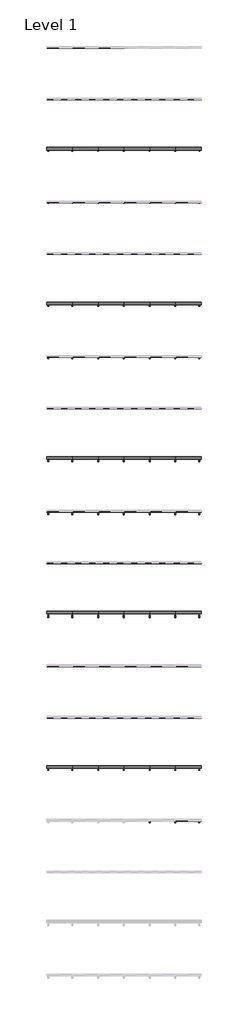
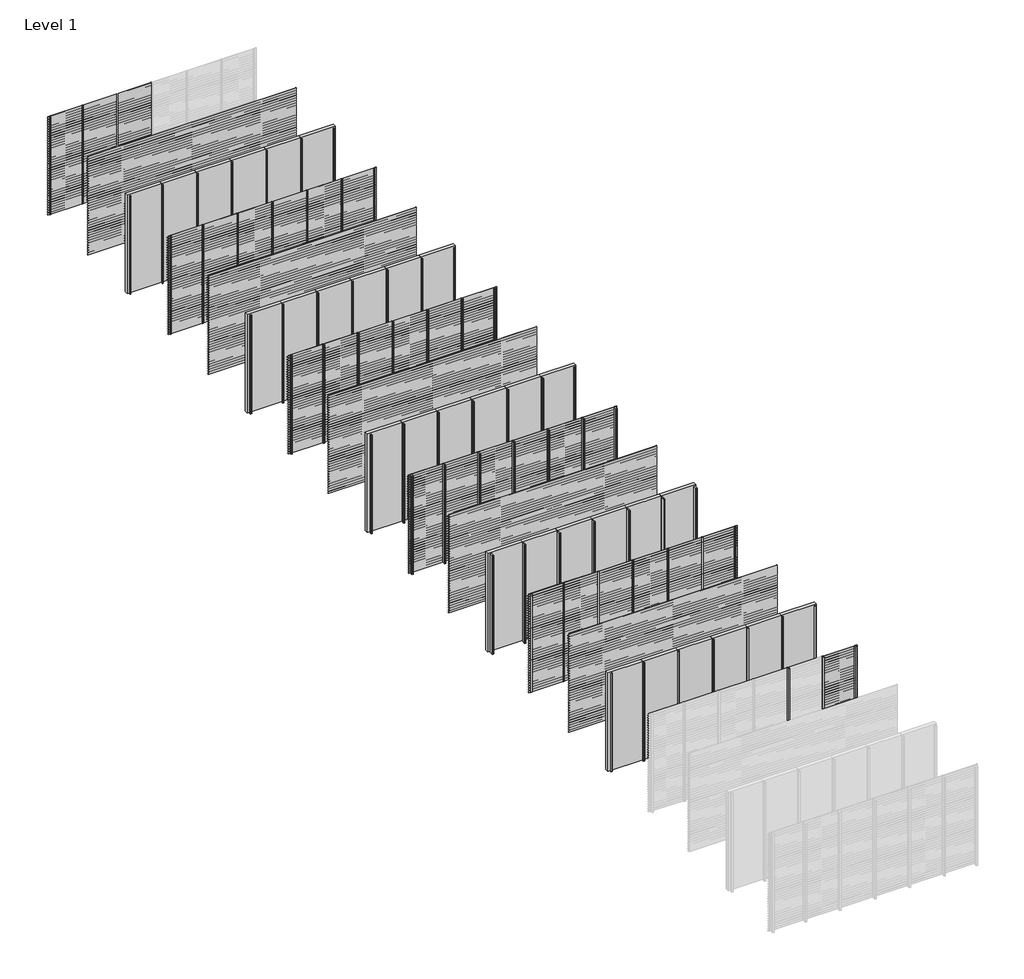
# One storey, part 2 of 35: 68 members, 63 plates.
"""IFC4 building model written with IfcOpenShell, lengths in millimetres."""

from ifc_helpers import new_model, si_unit, origin, origin_with_axes, place, context, project, spatial, polyline, outline, extrude, transform, mapped, element, save
from components import rectangular_mullion_42be434b, rectangular_mullion_e1f482b2, rectangular_mullion_21e3ddae, rectangular_mullion_fb497acc, rectangular_mullion_3facce28, rectangular_mullion_6cf2c509, rectangular_mullion_ffdfeaf4, rectangular_mullion_e0a14876, rectangular_mullion_146f339b, rectangular_mullion_aa1047c5, rectangular_mullion_c2c7736a, rectangular_mullion_35b0a916, rectangular_mullion_bd250e2e, rectangular_mullion_7b49c8f1, rectangular_mullion_2b84ad7e, rectangular_mullion_0fd695e7, rectangular_mullion_dfb17e98, empty_system_panel_empty_4f94343c

model = new_model("IFC4")

# Units and contexts
model_context = context("Model", 3, world=origin())
ifc_project = project(units=[si_unit("LENGTHUNIT", "METRE", prefix="MILLI")], contexts=[model_context])

# Site, building, storey
site = spatial("IfcSite", under=ifc_project)
building = spatial("IfcBuilding", under=site)
storey = spatial("IfcBuildingStorey", under=building, Name="Level 1", Elevation=0.0)

# Members
placement = place(None, origin())
rectangular_mullion_shape = rectangular_mullion_42be434b(model_context)
element("IfcMember", 1, ObjectType="Rectangular Mullion : NLRS_21_CWM_drager LD.0065_Storax", at=placement, inside=storey, context=model_context, shape_type="MappedRepresentation", body=[
    mapped(rectangular_mullion_shape, transform((1000.0, 0.0, 0.0), x_axis=(-1.0, 0.0, 0.0), y_axis=(0.0, 1.0, 0.0), z_axis=(0.0, 0.0, -1.0))),
])
element("IfcMember", 2, ObjectType="Rectangular Mullion : NLRS_21_CWM_drager LD.0065_Storax", at=placement, inside=storey, context=model_context, shape_type="MappedRepresentation", body=[
    mapped(rectangular_mullion_shape, transform((5000.0, -4000.0, 0.0), x_axis=(-1.0, 0.0, 0.0), y_axis=(0.0, 1.0, 0.0), z_axis=(0.0, 0.0, -1.0))),
])
element("IfcMember", 3, ObjectType="Rectangular Mullion : NLRS_21_CWM_drager LD.0065_Storax", at=placement, inside=storey, context=model_context, shape_type="MappedRepresentation", body=[
    mapped(rectangular_mullion_shape, transform((4000.0, -4000.0, 0.0), x_axis=(-1.0, 0.0, 0.0), y_axis=(0.0, 1.0, 0.0), z_axis=(0.0, 0.0, -1.0))),
])
element("IfcMember", 4, ObjectType="Rectangular Mullion : NLRS_21_CWM_drager LD.0065_Storax", at=placement, inside=storey, context=model_context, shape_type="MappedRepresentation", body=[
    mapped(rectangular_mullion_shape, transform((3000.0, -4000.0, 0.0), x_axis=(-1.0, 0.0, 0.0), y_axis=(0.0, 1.0, 0.0), z_axis=(0.0, 0.0, -1.0))),
])
element("IfcMember", 5, ObjectType="Rectangular Mullion : NLRS_21_CWM_drager LD.0065_Storax", at=placement, inside=storey, context=model_context, shape_type="MappedRepresentation", body=[
    mapped(rectangular_mullion_shape, transform((2000.0, -4000.0, 0.0), x_axis=(-1.0, 0.0, 0.0), y_axis=(0.0, 1.0, 0.0), z_axis=(0.0, 0.0, -1.0))),
])
element("IfcMember", 6, ObjectType="Rectangular Mullion : NLRS_21_CWM_drager LD.0065_Storax", at=placement, inside=storey, context=model_context, shape_type="MappedRepresentation", body=[
    mapped(rectangular_mullion_shape, transform((1000.0, -4000.0, 0.0), x_axis=(-1.0, 0.0, 0.0), y_axis=(0.0, 1.0, 0.0), z_axis=(0.0, 0.0, -1.0))),
])
rectangular_mullion_2_shape = rectangular_mullion_e1f482b2(model_context)
element("IfcMember", 7, ObjectType="Rectangular Mullion : NLRS_21_CWM_drager LD.0195_Storax", at=placement, inside=storey, context=model_context, shape_type="MappedRepresentation", body=[
    mapped(rectangular_mullion_2_shape, transform((5000.0, -6000.0, 0.0), x_axis=(-1.0, 0.0, 0.0), y_axis=(0.0, 1.0, 0.0), z_axis=(0.0, 0.0, -1.0))),
])
element("IfcMember", 8, ObjectType="Rectangular Mullion : NLRS_21_CWM_drager LD.0195_Storax", at=placement, inside=storey, context=model_context, shape_type="MappedRepresentation", body=[
    mapped(rectangular_mullion_2_shape, transform((4000.0, -6000.0, 0.0), x_axis=(-1.0, 0.0, 0.0), y_axis=(0.0, 1.0, 0.0), z_axis=(0.0, 0.0, -1.0))),
])
element("IfcMember", 9, ObjectType="Rectangular Mullion : NLRS_21_CWM_drager LD.0195_Storax", at=placement, inside=storey, context=model_context, shape_type="MappedRepresentation", body=[
    mapped(rectangular_mullion_2_shape, transform((3000.0, -6000.0, 0.0), x_axis=(-1.0, 0.0, 0.0), y_axis=(0.0, 1.0, 0.0), z_axis=(0.0, 0.0, -1.0))),
])
element("IfcMember", 10, ObjectType="Rectangular Mullion : NLRS_21_CWM_drager LD.0195_Storax", at=placement, inside=storey, context=model_context, shape_type="MappedRepresentation", body=[
    mapped(rectangular_mullion_2_shape, transform((2000.0, -6000.0, 0.0), x_axis=(-1.0, 0.0, 0.0), y_axis=(0.0, 1.0, 0.0), z_axis=(0.0, 0.0, -1.0))),
])
element("IfcMember", 11, ObjectType="Rectangular Mullion : NLRS_21_CWM_drager LD.0195_Storax", at=placement, inside=storey, context=model_context, shape_type="MappedRepresentation", body=[
    mapped(rectangular_mullion_2_shape, transform((1000.0, -6000.0, 0.0), x_axis=(-1.0, 0.0, 0.0), y_axis=(0.0, 1.0, 0.0), z_axis=(0.0, 0.0, -1.0))),
])
element("IfcMember", 12, ObjectType="Rectangular Mullion : NLRS_21_CWM_drager LD.0195_Storax", at=placement, inside=storey, context=model_context, shape_type="MappedRepresentation", body=[
    mapped(rectangular_mullion_2_shape, transform((5000.0, -10000.0, 0.0), x_axis=(-1.0, 0.0, 0.0), y_axis=(0.0, 1.0, 0.0), z_axis=(0.0, 0.0, -1.0))),
])
element("IfcMember", 13, ObjectType="Rectangular Mullion : NLRS_21_CWM_drager LD.0195_Storax", at=placement, inside=storey, context=model_context, shape_type="MappedRepresentation", body=[
    mapped(rectangular_mullion_2_shape, transform((4000.0, -10000.0, 0.0), x_axis=(-1.0, 0.0, 0.0), y_axis=(0.0, 1.0, 0.0), z_axis=(0.0, 0.0, -1.0))),
])
element("IfcMember", 14, ObjectType="Rectangular Mullion : NLRS_21_CWM_drager LD.0195_Storax", at=placement, inside=storey, context=model_context, shape_type="MappedRepresentation", body=[
    mapped(rectangular_mullion_2_shape, transform((3000.0, -10000.0, 0.0), x_axis=(-1.0, 0.0, 0.0), y_axis=(0.0, 1.0, 0.0), z_axis=(0.0, 0.0, -1.0))),
])
element("IfcMember", 15, ObjectType="Rectangular Mullion : NLRS_21_CWM_drager LD.0195_Storax", at=placement, inside=storey, context=model_context, shape_type="MappedRepresentation", body=[
    mapped(rectangular_mullion_2_shape, transform((2000.0, -10000.0, 0.0), x_axis=(-1.0, 0.0, 0.0), y_axis=(0.0, 1.0, 0.0), z_axis=(0.0, 0.0, -1.0))),
])
element("IfcMember", 16, ObjectType="Rectangular Mullion : NLRS_21_CWM_drager LD.0195_Storax", at=placement, inside=storey, context=model_context, shape_type="MappedRepresentation", body=[
    mapped(rectangular_mullion_2_shape, transform((1000.0, -10000.0, 0.0), x_axis=(-1.0, 0.0, 0.0), y_axis=(0.0, 1.0, 0.0), z_axis=(0.0, 0.0, -1.0))),
])
rectangular_mullion_3_shape = rectangular_mullion_21e3ddae(model_context)
element("IfcMember", 17, ObjectType="Rectangular Mullion : NLRS_21_CWM_drager LD.0460_Storax", at=placement, inside=storey, context=model_context, shape_type="MappedRepresentation", body=[
    mapped(rectangular_mullion_3_shape, transform((5000.0, -12000.0, 0.0), x_axis=(-1.0, 0.0, 0.0), y_axis=(0.0, 1.0, 0.0), z_axis=(0.0, 0.0, -1.0))),
])
element("IfcMember", 18, ObjectType="Rectangular Mullion : NLRS_21_CWM_drager LD.0460_Storax", at=placement, inside=storey, context=model_context, shape_type="MappedRepresentation", body=[
    mapped(rectangular_mullion_3_shape, transform((4000.0, -12000.0, 0.0), x_axis=(-1.0, 0.0, 0.0), y_axis=(0.0, 1.0, 0.0), z_axis=(0.0, 0.0, -1.0))),
])
element("IfcMember", 19, ObjectType="Rectangular Mullion : NLRS_21_CWM_drager LD.0460_Storax", at=placement, inside=storey, context=model_context, shape_type="MappedRepresentation", body=[
    mapped(rectangular_mullion_3_shape, transform((3000.0, -12000.0, 0.0), x_axis=(-1.0, 0.0, 0.0), y_axis=(0.0, 1.0, 0.0), z_axis=(0.0, 0.0, -1.0))),
])
element("IfcMember", 20, ObjectType="Rectangular Mullion : NLRS_21_CWM_drager LD.0460_Storax", at=placement, inside=storey, context=model_context, shape_type="MappedRepresentation", body=[
    mapped(rectangular_mullion_3_shape, transform((2000.0, -12000.0, 0.0), x_axis=(-1.0, 0.0, 0.0), y_axis=(0.0, 1.0, 0.0), z_axis=(0.0, 0.0, -1.0))),
])
element("IfcMember", 21, ObjectType="Rectangular Mullion : NLRS_21_CWM_drager LD.0460_Storax", at=placement, inside=storey, context=model_context, shape_type="MappedRepresentation", body=[
    mapped(rectangular_mullion_3_shape, transform((1000.0, -12000.0, 0.0), x_axis=(-1.0, 0.0, 0.0), y_axis=(0.0, 1.0, 0.0), z_axis=(0.0, 0.0, -1.0))),
])
element("IfcMember", 22, ObjectType="Rectangular Mullion : NLRS_21_CWM_drager LD.0460_Storax", at=placement, inside=storey, context=model_context, shape_type="MappedRepresentation", body=[
    mapped(rectangular_mullion_3_shape, transform((5000.0, -16000.0, 0.0), x_axis=(-1.0, 0.0, 0.0), y_axis=(0.0, 1.0, 0.0), z_axis=(0.0, 0.0, -1.0))),
])
element("IfcMember", 23, ObjectType="Rectangular Mullion : NLRS_21_CWM_drager LD.0460_Storax", at=placement, inside=storey, context=model_context, shape_type="MappedRepresentation", body=[
    mapped(rectangular_mullion_3_shape, transform((4000.0, -16000.0, 0.0), x_axis=(-1.0, 0.0, 0.0), y_axis=(0.0, 1.0, 0.0), z_axis=(0.0, 0.0, -1.0))),
])
element("IfcMember", 24, ObjectType="Rectangular Mullion : NLRS_21_CWM_drager LD.0460_Storax", at=placement, inside=storey, context=model_context, shape_type="MappedRepresentation", body=[
    mapped(rectangular_mullion_3_shape, transform((3000.0, -16000.0, 0.0), x_axis=(-1.0, 0.0, 0.0), y_axis=(0.0, 1.0, 0.0), z_axis=(0.0, 0.0, -1.0))),
])
element("IfcMember", 25, ObjectType="Rectangular Mullion : NLRS_21_CWM_drager LD.0460_Storax", at=placement, inside=storey, context=model_context, shape_type="MappedRepresentation", body=[
    mapped(rectangular_mullion_3_shape, transform((2000.0, -16000.0, 0.0), x_axis=(-1.0, 0.0, 0.0), y_axis=(0.0, 1.0, 0.0), z_axis=(0.0, 0.0, -1.0))),
])
element("IfcMember", 26, ObjectType="Rectangular Mullion : NLRS_21_CWM_drager LD.0460_Storax", at=placement, inside=storey, context=model_context, shape_type="MappedRepresentation", body=[
    mapped(rectangular_mullion_3_shape, transform((1000.0, -16000.0, 0.0), x_axis=(-1.0, 0.0, 0.0), y_axis=(0.0, 1.0, 0.0), z_axis=(0.0, 0.0, -1.0))),
])
rectangular_mullion_4_shape = rectangular_mullion_fb497acc(model_context)
element("IfcMember", 27, ObjectType="Rectangular Mullion : NLRS_21_CWM_drager LD.0995_Storax", at=placement, inside=storey, context=model_context, shape_type="MappedRepresentation", body=[
    mapped(rectangular_mullion_4_shape, transform((5000.0, -18000.0, 0.0), x_axis=(-1.0, 0.0, 0.0), y_axis=(0.0, 1.0, 0.0), z_axis=(0.0, 0.0, -1.0))),
])
element("IfcMember", 28, ObjectType="Rectangular Mullion : NLRS_21_CWM_drager LD.0995_Storax", at=placement, inside=storey, context=model_context, shape_type="MappedRepresentation", body=[
    mapped(rectangular_mullion_4_shape, transform((4000.0, -18000.0, 0.0), x_axis=(-1.0, 0.0, 0.0), y_axis=(0.0, 1.0, 0.0), z_axis=(0.0, 0.0, -1.0))),
])
element("IfcMember", 29, ObjectType="Rectangular Mullion : NLRS_21_CWM_drager LD.0995_Storax", at=placement, inside=storey, context=model_context, shape_type="MappedRepresentation", body=[
    mapped(rectangular_mullion_4_shape, transform((3000.0, -18000.0, 0.0), x_axis=(-1.0, 0.0, 0.0), y_axis=(0.0, 1.0, 0.0), z_axis=(0.0, 0.0, -1.0))),
])
element("IfcMember", 30, ObjectType="Rectangular Mullion : NLRS_21_CWM_drager LD.0995_Storax", at=placement, inside=storey, context=model_context, shape_type="MappedRepresentation", body=[
    mapped(rectangular_mullion_4_shape, transform((2000.0, -18000.0, 0.0), x_axis=(-1.0, 0.0, 0.0), y_axis=(0.0, 1.0, 0.0), z_axis=(0.0, 0.0, -1.0))),
])
element("IfcMember", 31, ObjectType="Rectangular Mullion : NLRS_21_CWM_drager LD.0995_Storax", at=placement, inside=storey, context=model_context, shape_type="MappedRepresentation", body=[
    mapped(rectangular_mullion_4_shape, transform((1000.0, -18000.0, 0.0), x_axis=(-1.0, 0.0, 0.0), y_axis=(0.0, 1.0, 0.0), z_axis=(0.0, 0.0, -1.0))),
])
element("IfcMember", 32, ObjectType="Rectangular Mullion : NLRS_21_CWM_drager LD.0995_Storax", at=placement, inside=storey, context=model_context, shape_type="MappedRepresentation", body=[
    mapped(rectangular_mullion_4_shape, transform((5000.0, -22000.0, 0.0), x_axis=(-1.0, 0.0, 0.0), y_axis=(0.0, 1.0, 0.0), z_axis=(0.0, 0.0, -1.0))),
])
element("IfcMember", 33, ObjectType="Rectangular Mullion : NLRS_21_CWM_drager LD.0995_Storax", at=placement, inside=storey, context=model_context, shape_type="MappedRepresentation", body=[
    mapped(rectangular_mullion_4_shape, transform((4000.0, -22000.0, 0.0), x_axis=(-1.0, 0.0, 0.0), y_axis=(0.0, 1.0, 0.0), z_axis=(0.0, 0.0, -1.0))),
])
element("IfcMember", 34, ObjectType="Rectangular Mullion : NLRS_21_CWM_drager LD.0995_Storax", at=placement, inside=storey, context=model_context, shape_type="MappedRepresentation", body=[
    mapped(rectangular_mullion_4_shape, transform((3000.0, -22000.0, 0.0), x_axis=(-1.0, 0.0, 0.0), y_axis=(0.0, 1.0, 0.0), z_axis=(0.0, 0.0, -1.0))),
])
element("IfcMember", 35, ObjectType="Rectangular Mullion : NLRS_21_CWM_drager LD.0995_Storax", at=placement, inside=storey, context=model_context, shape_type="MappedRepresentation", body=[
    mapped(rectangular_mullion_4_shape, transform((2000.0, -22000.0, 0.0), x_axis=(-1.0, 0.0, 0.0), y_axis=(0.0, 1.0, 0.0), z_axis=(0.0, 0.0, -1.0))),
])
element("IfcMember", 36, ObjectType="Rectangular Mullion : NLRS_21_CWM_drager LD.0995_Storax", at=placement, inside=storey, context=model_context, shape_type="MappedRepresentation", body=[
    mapped(rectangular_mullion_4_shape, transform((1000.0, -22000.0, 0.0), x_axis=(-1.0, 0.0, 0.0), y_axis=(0.0, 1.0, 0.0), z_axis=(0.0, 0.0, -1.0))),
])
rectangular_mullion_5_shape = rectangular_mullion_3facce28(model_context)
element("IfcMember", 37, ObjectType="Rectangular Mullion : NLRS_21_CWM_drager SD.014_Storax", at=placement, inside=storey, context=model_context, shape_type="MappedRepresentation", body=[
    mapped(rectangular_mullion_5_shape, transform((5000.0, -24000.0, 0.0), x_axis=(-1.0, 0.0, 0.0), y_axis=(0.0, 1.0, 0.0), z_axis=(0.0, 0.0, -1.0))),
])
element("IfcMember", 38, ObjectType="Rectangular Mullion : NLRS_21_CWM_drager SD.014_Storax", at=placement, inside=storey, context=model_context, shape_type="MappedRepresentation", body=[
    mapped(rectangular_mullion_5_shape, transform((4000.0, -24000.0, 0.0), x_axis=(-1.0, 0.0, 0.0), y_axis=(0.0, 1.0, 0.0), z_axis=(0.0, 0.0, -1.0))),
])
element("IfcMember", 39, ObjectType="Rectangular Mullion : NLRS_21_CWM_drager SD.014_Storax", at=placement, inside=storey, context=model_context, shape_type="MappedRepresentation", body=[
    mapped(rectangular_mullion_5_shape, transform((3000.0, -24000.0, 0.0), x_axis=(-1.0, 0.0, 0.0), y_axis=(0.0, 1.0, 0.0), z_axis=(0.0, 0.0, -1.0))),
])
element("IfcMember", 40, ObjectType="Rectangular Mullion : NLRS_21_CWM_drager SD.014_Storax", at=placement, inside=storey, context=model_context, shape_type="MappedRepresentation", body=[
    mapped(rectangular_mullion_5_shape, transform((2000.0, -24000.0, 0.0), x_axis=(-1.0, 0.0, 0.0), y_axis=(0.0, 1.0, 0.0), z_axis=(0.0, 0.0, -1.0))),
])
element("IfcMember", 41, ObjectType="Rectangular Mullion : NLRS_21_CWM_drager SD.014_Storax", at=placement, inside=storey, context=model_context, shape_type="MappedRepresentation", body=[
    mapped(rectangular_mullion_5_shape, transform((1000.0, -24000.0, 0.0), x_axis=(-1.0, 0.0, 0.0), y_axis=(0.0, 1.0, 0.0), z_axis=(0.0, 0.0, -1.0))),
])
element("IfcMember", 42, ObjectType="Rectangular Mullion : NLRS_21_CWM_drager SD.014_Storax", at=placement, inside=storey, context=model_context, shape_type="MappedRepresentation", body=[
    mapped(rectangular_mullion_5_shape, transform((5000.0, -28000.0, 0.0), x_axis=(-1.0, 0.0, 0.0), y_axis=(0.0, 1.0, 0.0), z_axis=(0.0, 0.0, -1.0))),
])
element("IfcMember", 43, ObjectType="Rectangular Mullion : NLRS_21_CWM_drager SD.014_Storax", at=placement, inside=storey, context=model_context, shape_type="MappedRepresentation", body=[
    mapped(rectangular_mullion_5_shape, transform((4000.0, -28000.0, 0.0), x_axis=(-1.0, 0.0, 0.0), y_axis=(0.0, 1.0, 0.0), z_axis=(0.0, 0.0, -1.0))),
])
element("IfcMember", 44, ObjectType="Rectangular Mullion : NLRS_21_CWM_drager SD.014_Storax", at=placement, inside=storey, context=model_context, shape_type="MappedRepresentation", body=[
    mapped(rectangular_mullion_5_shape, transform((3000.0, -28000.0, 0.0), x_axis=(-1.0, 0.0, 0.0), y_axis=(0.0, 1.0, 0.0), z_axis=(0.0, 0.0, -1.0))),
])
element("IfcMember", 45, ObjectType="Rectangular Mullion : NLRS_21_CWM_drager SD.014_Storax", at=placement, inside=storey, context=model_context, shape_type="MappedRepresentation", body=[
    mapped(rectangular_mullion_5_shape, transform((2000.0, -28000.0, 0.0), x_axis=(-1.0, 0.0, 0.0), y_axis=(0.0, 1.0, 0.0), z_axis=(0.0, 0.0, -1.0))),
])
element("IfcMember", 46, ObjectType="Rectangular Mullion : NLRS_21_CWM_drager SD.014_Storax", at=placement, inside=storey, context=model_context, shape_type="MappedRepresentation", body=[
    mapped(rectangular_mullion_5_shape, transform((1000.0, -28000.0, 0.0), x_axis=(-1.0, 0.0, 0.0), y_axis=(0.0, 1.0, 0.0), z_axis=(0.0, 0.0, -1.0))),
])
rectangular_mullion_6_shape = rectangular_mullion_6cf2c509(model_context)
element("IfcMember", 47, ObjectType="Rectangular Mullion : NLRS_21_CWM_drager SD.054_Storax", at=placement, inside=storey, context=model_context, shape_type="MappedRepresentation", body=[
    mapped(rectangular_mullion_6_shape, transform((5000.0, -30000.0, 0.0), x_axis=(-1.0, 0.0, 0.0), y_axis=(0.0, 1.0, 0.0), z_axis=(0.0, 0.0, -1.0))),
])
element("IfcMember", 48, ObjectType="Rectangular Mullion : NLRS_21_CWM_drager SD.054_Storax", at=placement, inside=storey, context=model_context, shape_type="MappedRepresentation", body=[
    mapped(rectangular_mullion_6_shape, transform((4000.0, -30000.0, 0.0), x_axis=(-1.0, 0.0, 0.0), y_axis=(0.0, 1.0, 0.0), z_axis=(0.0, 0.0, -1.0))),
])
rectangular_mullion_7_shape = rectangular_mullion_ffdfeaf4(model_context)
element("IfcMember", 49, ObjectType="Rectangular Mullion : NLRS_21_CWM_drager LD.0065 - links_Storax", at=placement, inside=storey, context=model_context, shape_type="MappedRepresentation", body=[
    mapped(rectangular_mullion_7_shape, transform((0.0, 0.0, 0.0), x_axis=(-1.0, 0.0, 0.0), y_axis=(0.0, 1.0, 0.0), z_axis=(0.0, 0.0, -1.0))),
])
element("IfcMember", 50, ObjectType="Rectangular Mullion : NLRS_21_CWM_drager LD.0065 - links_Storax", at=placement, inside=storey, context=model_context, shape_type="MappedRepresentation", body=[
    mapped(rectangular_mullion_7_shape, transform((0.0, -4000.0, 0.0), x_axis=(-1.0, 0.0, 0.0), y_axis=(0.0, 1.0, 0.0), z_axis=(0.0, 0.0, -1.0))),
])
rectangular_mullion_8_shape = rectangular_mullion_e0a14876(model_context)
element("IfcMember", 51, ObjectType="Rectangular Mullion : NLRS_21_CWM_drager LD.0065 - rechts_Storax", at=placement, inside=storey, context=model_context, shape_type="MappedRepresentation", body=[
    mapped(rectangular_mullion_8_shape, transform((6000.0, -4000.0, 3000.0), x_axis=(1.0, 0.0, 0.0), y_axis=(0.0, 1.0, 0.0), z_axis=(0.0, 0.0, 1.0))),
])
rectangular_mullion_9_shape = rectangular_mullion_146f339b(model_context)
element("IfcMember", 52, ObjectType="Rectangular Mullion : NLRS_21_CWM_drager LD.0195 - links_Storax", at=placement, inside=storey, context=model_context, shape_type="MappedRepresentation", body=[
    mapped(rectangular_mullion_9_shape, transform((0.0, -6000.0, 0.0), x_axis=(-1.0, 0.0, 0.0), y_axis=(0.0, 1.0, 0.0), z_axis=(0.0, 0.0, -1.0))),
])
element("IfcMember", 53, ObjectType="Rectangular Mullion : NLRS_21_CWM_drager LD.0195 - links_Storax", at=placement, inside=storey, context=model_context, shape_type="MappedRepresentation", body=[
    mapped(rectangular_mullion_9_shape, transform((0.0, -10000.0, 0.0), x_axis=(-1.0, 0.0, 0.0), y_axis=(0.0, 1.0, 0.0), z_axis=(0.0, 0.0, -1.0))),
])
rectangular_mullion_10_shape = rectangular_mullion_aa1047c5(model_context)
element("IfcMember", 54, ObjectType="Rectangular Mullion : NLRS_21_CWM_drager LD.0195 - rechts_Storax", at=placement, inside=storey, context=model_context, shape_type="MappedRepresentation", body=[
    mapped(rectangular_mullion_10_shape, transform((6000.0, -6000.0, 3000.0), x_axis=(1.0, 0.0, 0.0), y_axis=(0.0, 1.0, 0.0), z_axis=(0.0, 0.0, 1.0))),
])
element("IfcMember", 55, ObjectType="Rectangular Mullion : NLRS_21_CWM_drager LD.0195 - rechts_Storax", at=placement, inside=storey, context=model_context, shape_type="MappedRepresentation", body=[
    mapped(rectangular_mullion_10_shape, transform((6000.0, -10000.0, 3000.0), x_axis=(1.0, 0.0, 0.0), y_axis=(0.0, 1.0, 0.0), z_axis=(0.0, 0.0, 1.0))),
])
rectangular_mullion_11_shape = rectangular_mullion_c2c7736a(model_context)
element("IfcMember", 56, ObjectType="Rectangular Mullion : NLRS_21_CWM_drager LD.0460 - links_Storax", at=placement, inside=storey, context=model_context, shape_type="MappedRepresentation", body=[
    mapped(rectangular_mullion_11_shape, transform((0.0, -12000.0, 0.0), x_axis=(-1.0, 0.0, 0.0), y_axis=(0.0, 1.0, 0.0), z_axis=(0.0, 0.0, -1.0))),
])
element("IfcMember", 57, ObjectType="Rectangular Mullion : NLRS_21_CWM_drager LD.0460 - links_Storax", at=placement, inside=storey, context=model_context, shape_type="MappedRepresentation", body=[
    mapped(rectangular_mullion_11_shape, transform((0.0, -16000.0, 0.0), x_axis=(-1.0, 0.0, 0.0), y_axis=(0.0, 1.0, 0.0), z_axis=(0.0, 0.0, -1.0))),
])
rectangular_mullion_12_shape = rectangular_mullion_35b0a916(model_context)
element("IfcMember", 58, ObjectType="Rectangular Mullion : NLRS_21_CWM_drager LD.0460 - rechts_Storax", at=placement, inside=storey, context=model_context, shape_type="MappedRepresentation", body=[
    mapped(rectangular_mullion_12_shape, transform((6000.0, -12000.0, 3000.0), x_axis=(1.0, 0.0, 0.0), y_axis=(0.0, 1.0, 0.0), z_axis=(0.0, 0.0, 1.0))),
])
element("IfcMember", 59, ObjectType="Rectangular Mullion : NLRS_21_CWM_drager LD.0460 - rechts_Storax", at=placement, inside=storey, context=model_context, shape_type="MappedRepresentation", body=[
    mapped(rectangular_mullion_12_shape, transform((6000.0, -16000.0, 3000.0), x_axis=(1.0, 0.0, 0.0), y_axis=(0.0, 1.0, 0.0), z_axis=(0.0, 0.0, 1.0))),
])
rectangular_mullion_13_shape = rectangular_mullion_bd250e2e(model_context)
element("IfcMember", 60, ObjectType="Rectangular Mullion : NLRS_21_CWM_drager LD.0995 - links_Storax", at=placement, inside=storey, context=model_context, shape_type="MappedRepresentation", body=[
    mapped(rectangular_mullion_13_shape, transform((0.0, -18000.0, 0.0), x_axis=(-1.0, 0.0, 0.0), y_axis=(0.0, 1.0, 0.0), z_axis=(0.0, 0.0, -1.0))),
])
element("IfcMember", 61, ObjectType="Rectangular Mullion : NLRS_21_CWM_drager LD.0995 - links_Storax", at=placement, inside=storey, context=model_context, shape_type="MappedRepresentation", body=[
    mapped(rectangular_mullion_13_shape, transform((0.0, -22000.0, 0.0), x_axis=(-1.0, 0.0, 0.0), y_axis=(0.0, 1.0, 0.0), z_axis=(0.0, 0.0, -1.0))),
])
rectangular_mullion_14_shape = rectangular_mullion_7b49c8f1(model_context)
element("IfcMember", 62, ObjectType="Rectangular Mullion : NLRS_21_CWM_drager LD.0995 - rechts_Storax", at=placement, inside=storey, context=model_context, shape_type="MappedRepresentation", body=[
    mapped(rectangular_mullion_14_shape, transform((6000.0, -18000.0, 3000.0), x_axis=(1.0, 0.0, 0.0), y_axis=(0.0, 1.0, 0.0), z_axis=(0.0, 0.0, 1.0))),
])
element("IfcMember", 63, ObjectType="Rectangular Mullion : NLRS_21_CWM_drager LD.0995 - rechts_Storax", at=placement, inside=storey, context=model_context, shape_type="MappedRepresentation", body=[
    mapped(rectangular_mullion_14_shape, transform((6000.0, -22000.0, 3000.0), x_axis=(1.0, 0.0, 0.0), y_axis=(0.0, 1.0, 0.0), z_axis=(0.0, 0.0, 1.0))),
])
rectangular_mullion_15_shape = rectangular_mullion_2b84ad7e(model_context)
element("IfcMember", 64, ObjectType="Rectangular Mullion : NLRS_21_CWM_drager SD.014 - links_Storax", at=placement, inside=storey, context=model_context, shape_type="MappedRepresentation", body=[
    mapped(rectangular_mullion_15_shape, transform((0.0, -24000.0, 0.0), x_axis=(-1.0, 0.0, 0.0), y_axis=(0.0, 1.0, 0.0), z_axis=(0.0, 0.0, -1.0))),
])
element("IfcMember", 65, ObjectType="Rectangular Mullion : NLRS_21_CWM_drager SD.014 - links_Storax", at=placement, inside=storey, context=model_context, shape_type="MappedRepresentation", body=[
    mapped(rectangular_mullion_15_shape, transform((0.0, -28000.0, 0.0), x_axis=(-1.0, 0.0, 0.0), y_axis=(0.0, 1.0, 0.0), z_axis=(0.0, 0.0, -1.0))),
])
rectangular_mullion_16_shape = rectangular_mullion_0fd695e7(model_context)
element("IfcMember", 66, ObjectType="Rectangular Mullion : NLRS_21_CWM_drager SD.014 - rechts_Storax", at=placement, inside=storey, context=model_context, shape_type="MappedRepresentation", body=[
    mapped(rectangular_mullion_16_shape, transform((6000.0, -24000.0, 3000.0), x_axis=(1.0, 0.0, 0.0), y_axis=(0.0, 1.0, 0.0), z_axis=(0.0, 0.0, 1.0))),
])
element("IfcMember", 67, ObjectType="Rectangular Mullion : NLRS_21_CWM_drager SD.014 - rechts_Storax", at=placement, inside=storey, context=model_context, shape_type="MappedRepresentation", body=[
    mapped(rectangular_mullion_16_shape, transform((6000.0, -28000.0, 3000.0), x_axis=(1.0, 0.0, 0.0), y_axis=(0.0, 1.0, 0.0), z_axis=(0.0, 0.0, 1.0))),
])
rectangular_mullion_17_shape = rectangular_mullion_dfb17e98(model_context)
element("IfcMember", 68, ObjectType="Rectangular Mullion : NLRS_21_CWM_drager SD.054 - rechts_Storax", at=placement, inside=storey, context=model_context, shape_type="MappedRepresentation", body=[
    mapped(rectangular_mullion_17_shape, transform((6000.0, -30000.0, 3000.0), x_axis=(1.0, 0.0, 0.0), y_axis=(0.0, 1.0, 0.0), z_axis=(0.0, 0.0, 1.0))),
])

# Plates
element("IfcPlate", 69, ObjectType="NLRS_21_WA_lamellenwand Linius - L.075.01_Storax", at=placement, inside=storey, context=model_context, shape_type="SweptSolid", body=[
    extrude(outline(polyline([(0.0, 1.0), (1000.0, 1.0), (1000.0, -1.0), (0.0, -1.0), (0.0, 1.0)])), origin_with_axes(), (0.0, 0.0, 1.0), 3000.0),
])
element("IfcPlate", 70, ObjectType="NLRS_21_WA_lamellenwand Linius - L.075.01_Storax", at=placement, inside=storey, context=model_context, shape_type="SweptSolid", body=[
    extrude(outline(polyline([(1000.0, 1.0), (2000.0, 1.0), (2000.0, -1.0), (1000.0, -1.0), (1000.0, 1.0)])), origin_with_axes(), (0.0, 0.0, 1.0), 3000.0),
])
element("IfcPlate", 71, ObjectType="NLRS_21_WA_lamellenwand Linius - L.075.01_Storax", at=placement, inside=storey, context=model_context, shape_type="SweptSolid", body=[
    extrude(outline(polyline([(2000.0, 1.0), (3000.0, 1.0), (3000.0, -1.0), (2000.0, -1.0), (2000.0, 1.0)])), origin_with_axes(), (0.0, 0.0, 1.0), 3000.0),
])
element("IfcPlate", 72, ObjectType="NLRS_21_WA_lamellenwand Linius - L.075.01_Storax", at=placement, inside=storey, context=model_context, shape_type="SweptSolid", body=[
    extrude(outline(polyline([(0.0, -1999.0), (6000.0, -1999.0), (6000.0, -2001.0), (0.0, -2001.0), (0.0, -1999.0)])), origin_with_axes(), (0.0, 0.0, 1.0), 3000.0),
])
element("IfcPlate", 73, ObjectType="NLRS_21_WA_lamellenwand Linius - L.075.01_Storax", at=placement, inside=storey, context=model_context, shape_type="SweptSolid", body=[
    extrude(outline(polyline([(0.0, -5999.0), (1000.0, -5999.0), (1000.0, -6001.0), (0.0, -6001.0), (0.0, -5999.0)])), origin_with_axes(), (0.0, 0.0, 1.0), 3000.0),
])
element("IfcPlate", 74, ObjectType="NLRS_21_WA_lamellenwand Linius - L.075.01_Storax", at=placement, inside=storey, context=model_context, shape_type="SweptSolid", body=[
    extrude(outline(polyline([(1000.0, -5999.0), (2000.0, -5999.0), (2000.0, -6001.0), (1000.0, -6001.0), (1000.0, -5999.0)])), origin_with_axes(), (0.0, 0.0, 1.0), 3000.0),
])
element("IfcPlate", 75, ObjectType="NLRS_21_WA_lamellenwand Linius - L.075.01_Storax", at=placement, inside=storey, context=model_context, shape_type="SweptSolid", body=[
    extrude(outline(polyline([(2000.0, -5999.0), (3000.0, -5999.0), (3000.0, -6001.0), (2000.0, -6001.0), (2000.0, -5999.0)])), origin_with_axes(), (0.0, 0.0, 1.0), 3000.0),
])
element("IfcPlate", 76, ObjectType="NLRS_21_WA_lamellenwand Linius - L.075.01_Storax", at=placement, inside=storey, context=model_context, shape_type="SweptSolid", body=[
    extrude(outline(polyline([(3000.0, -5999.0), (4000.0, -5999.0), (4000.0, -6001.0), (3000.0, -6001.0), (3000.0, -5999.0)])), origin_with_axes(), (0.0, 0.0, 1.0), 3000.0),
])
element("IfcPlate", 77, ObjectType="NLRS_21_WA_lamellenwand Linius - L.075.01_Storax", at=placement, inside=storey, context=model_context, shape_type="SweptSolid", body=[
    extrude(outline(polyline([(4000.0, -5999.0), (5000.0, -5999.0), (5000.0, -6001.0), (4000.0, -6001.0), (4000.0, -5999.0)])), origin_with_axes(), (0.0, 0.0, 1.0), 3000.0),
])
element("IfcPlate", 78, ObjectType="NLRS_21_WA_lamellenwand Linius - L.075.01_Storax", at=placement, inside=storey, context=model_context, shape_type="SweptSolid", body=[
    extrude(outline(polyline([(5000.0, -5999.0), (6000.0, -5999.0), (6000.0, -6001.0), (5000.0, -6001.0), (5000.0, -5999.0)])), origin_with_axes(), (0.0, 0.0, 1.0), 3000.0),
])
element("IfcPlate", 79, ObjectType="NLRS_21_WA_lamellenwand Linius - L.075.01_Storax", at=placement, inside=storey, context=model_context, shape_type="SweptSolid", body=[
    extrude(outline(polyline([(0.0, -7999.0), (6000.0, -7999.0), (6000.0, -8001.0), (0.0, -8001.0), (0.0, -7999.0)])), origin_with_axes(), (0.0, 0.0, 1.0), 3000.0),
])
element("IfcPlate", 80, ObjectType="NLRS_21_WA_lamellenwand Linius - L.075.01_Storax", at=placement, inside=storey, context=model_context, shape_type="SweptSolid", body=[
    extrude(outline(polyline([(0.0, -11999.0), (1000.0, -11999.0), (1000.0, -12001.0), (0.0, -12001.0), (0.0, -11999.0)])), origin_with_axes(), (0.0, 0.0, 1.0), 3000.0),
])
element("IfcPlate", 81, ObjectType="NLRS_21_WA_lamellenwand Linius - L.075.01_Storax", at=placement, inside=storey, context=model_context, shape_type="SweptSolid", body=[
    extrude(outline(polyline([(1000.0, -11999.0), (2000.0, -11999.0), (2000.0, -12001.0), (1000.0, -12001.0), (1000.0, -11999.0)])), origin_with_axes(), (0.0, 0.0, 1.0), 3000.0),
])
element("IfcPlate", 82, ObjectType="NLRS_21_WA_lamellenwand Linius - L.075.01_Storax", at=placement, inside=storey, context=model_context, shape_type="SweptSolid", body=[
    extrude(outline(polyline([(2000.0, -11999.0), (3000.0, -11999.0), (3000.0, -12001.0), (2000.0, -12001.0), (2000.0, -11999.0)])), origin_with_axes(), (0.0, 0.0, 1.0), 3000.0),
])
element("IfcPlate", 83, ObjectType="NLRS_21_WA_lamellenwand Linius - L.075.01_Storax", at=placement, inside=storey, context=model_context, shape_type="SweptSolid", body=[
    extrude(outline(polyline([(3000.0, -11999.0), (4000.0, -11999.0), (4000.0, -12001.0), (3000.0, -12001.0), (3000.0, -11999.0)])), origin_with_axes(), (0.0, 0.0, 1.0), 3000.0),
])
element("IfcPlate", 84, ObjectType="NLRS_21_WA_lamellenwand Linius - L.075.01_Storax", at=placement, inside=storey, context=model_context, shape_type="SweptSolid", body=[
    extrude(outline(polyline([(4000.0, -11999.0), (5000.0, -11999.0), (5000.0, -12001.0), (4000.0, -12001.0), (4000.0, -11999.0)])), origin_with_axes(), (0.0, 0.0, 1.0), 3000.0),
])
element("IfcPlate", 85, ObjectType="NLRS_21_WA_lamellenwand Linius - L.075.01_Storax", at=placement, inside=storey, context=model_context, shape_type="SweptSolid", body=[
    extrude(outline(polyline([(5000.0, -11999.0), (6000.0, -11999.0), (6000.0, -12001.0), (5000.0, -12001.0), (5000.0, -11999.0)])), origin_with_axes(), (0.0, 0.0, 1.0), 3000.0),
])
element("IfcPlate", 86, ObjectType="NLRS_21_WA_lamellenwand Linius - L.075.01_Storax", at=placement, inside=storey, context=model_context, shape_type="SweptSolid", body=[
    extrude(outline(polyline([(0.0, -13999.0), (6000.0, -13999.0), (6000.0, -14001.0), (0.0, -14001.0), (0.0, -13999.0)])), origin_with_axes(), (0.0, 0.0, 1.0), 3000.0),
])
element("IfcPlate", 87, ObjectType="NLRS_21_WA_lamellenwand Linius - L.075.01_Storax", at=placement, inside=storey, context=model_context, shape_type="SweptSolid", body=[
    extrude(outline(polyline([(0.0, -17999.0), (1000.0, -17999.0), (1000.0, -18001.0), (0.0, -18001.0), (0.0, -17999.0)])), origin_with_axes(), (0.0, 0.0, 1.0), 3000.0),
])
element("IfcPlate", 88, ObjectType="NLRS_21_WA_lamellenwand Linius - L.075.01_Storax", at=placement, inside=storey, context=model_context, shape_type="SweptSolid", body=[
    extrude(outline(polyline([(1000.0, -17999.0), (2000.0, -17999.0), (2000.0, -18001.0), (1000.0, -18001.0), (1000.0, -17999.0)])), origin_with_axes(), (0.0, 0.0, 1.0), 3000.0),
])
element("IfcPlate", 89, ObjectType="NLRS_21_WA_lamellenwand Linius - L.075.01_Storax", at=placement, inside=storey, context=model_context, shape_type="SweptSolid", body=[
    extrude(outline(polyline([(2000.0, -17999.0), (3000.0, -17999.0), (3000.0, -18001.0), (2000.0, -18001.0), (2000.0, -17999.0)])), origin_with_axes(), (0.0, 0.0, 1.0), 3000.0),
])
element("IfcPlate", 90, ObjectType="NLRS_21_WA_lamellenwand Linius - L.075.01_Storax", at=placement, inside=storey, context=model_context, shape_type="SweptSolid", body=[
    extrude(outline(polyline([(3000.0, -17999.0), (4000.0, -17999.0), (4000.0, -18001.0), (3000.0, -18001.0), (3000.0, -17999.0)])), origin_with_axes(), (0.0, 0.0, 1.0), 3000.0),
])
element("IfcPlate", 91, ObjectType="NLRS_21_WA_lamellenwand Linius - L.075.01_Storax", at=placement, inside=storey, context=model_context, shape_type="SweptSolid", body=[
    extrude(outline(polyline([(4000.0, -17999.0), (5000.0, -17999.0), (5000.0, -18001.0), (4000.0, -18001.0), (4000.0, -17999.0)])), origin_with_axes(), (0.0, 0.0, 1.0), 3000.0),
])
element("IfcPlate", 92, ObjectType="NLRS_21_WA_lamellenwand Linius - L.075.01_Storax", at=placement, inside=storey, context=model_context, shape_type="SweptSolid", body=[
    extrude(outline(polyline([(5000.0, -17999.0), (6000.0, -17999.0), (6000.0, -18001.0), (5000.0, -18001.0), (5000.0, -17999.0)])), origin_with_axes(), (0.0, 0.0, 1.0), 3000.0),
])
element("IfcPlate", 93, ObjectType="NLRS_21_WA_lamellenwand Linius - L.075.01_Storax", at=placement, inside=storey, context=model_context, shape_type="SweptSolid", body=[
    extrude(outline(polyline([(0.0, -19999.0), (6000.0, -19999.0), (6000.0, -20001.0), (0.0, -20001.0), (0.0, -19999.0)])), origin_with_axes(), (0.0, 0.0, 1.0), 3000.0),
])
element("IfcPlate", 94, ObjectType="NLRS_21_WA_lamellenwand Linius - L.075.01_Storax", at=placement, inside=storey, context=model_context, shape_type="SweptSolid", body=[
    extrude(outline(polyline([(0.0, -23999.0), (1000.0, -23999.0), (1000.0, -24001.0), (0.0, -24001.0), (0.0, -23999.0)])), origin_with_axes(), (0.0, 0.0, 1.0), 3000.0),
])
element("IfcPlate", 95, ObjectType="NLRS_21_WA_lamellenwand Linius - L.075.01_Storax", at=placement, inside=storey, context=model_context, shape_type="SweptSolid", body=[
    extrude(outline(polyline([(1000.0, -23999.0), (2000.0, -23999.0), (2000.0, -24001.0), (1000.0, -24001.0), (1000.0, -23999.0)])), origin_with_axes(), (0.0, 0.0, 1.0), 3000.0),
])
element("IfcPlate", 96, ObjectType="NLRS_21_WA_lamellenwand Linius - L.075.01_Storax", at=placement, inside=storey, context=model_context, shape_type="SweptSolid", body=[
    extrude(outline(polyline([(2000.0, -23999.0), (3000.0, -23999.0), (3000.0, -24001.0), (2000.0, -24001.0), (2000.0, -23999.0)])), origin_with_axes(), (0.0, 0.0, 1.0), 3000.0),
])
element("IfcPlate", 97, ObjectType="NLRS_21_WA_lamellenwand Linius - L.075.01_Storax", at=placement, inside=storey, context=model_context, shape_type="SweptSolid", body=[
    extrude(outline(polyline([(3000.0, -23999.0), (4000.0, -23999.0), (4000.0, -24001.0), (3000.0, -24001.0), (3000.0, -23999.0)])), origin_with_axes(), (0.0, 0.0, 1.0), 3000.0),
])
element("IfcPlate", 98, ObjectType="NLRS_21_WA_lamellenwand Linius - L.075.01_Storax", at=placement, inside=storey, context=model_context, shape_type="SweptSolid", body=[
    extrude(outline(polyline([(4000.0, -23999.0), (5000.0, -23999.0), (5000.0, -24001.0), (4000.0, -24001.0), (4000.0, -23999.0)])), origin_with_axes(), (0.0, 0.0, 1.0), 3000.0),
])
element("IfcPlate", 99, ObjectType="NLRS_21_WA_lamellenwand Linius - L.075.01_Storax", at=placement, inside=storey, context=model_context, shape_type="SweptSolid", body=[
    extrude(outline(polyline([(5000.0, -23999.0), (6000.0, -23999.0), (6000.0, -24001.0), (5000.0, -24001.0), (5000.0, -23999.0)])), origin_with_axes(), (0.0, 0.0, 1.0), 3000.0),
])
element("IfcPlate", 100, ObjectType="NLRS_21_WA_lamellenwand Linius - L.075.01_Storax", at=placement, inside=storey, context=model_context, shape_type="SweptSolid", body=[
    extrude(outline(polyline([(0.0, -25999.0), (6000.0, -25999.0), (6000.0, -26001.0), (0.0, -26001.0), (0.0, -25999.0)])), origin_with_axes(), (0.0, 0.0, 1.0), 3000.0),
])
element("IfcPlate", 101, ObjectType="NLRS_21_WA_lamellenwand Linius - L.075.01_Storax", at=placement, inside=storey, context=model_context, shape_type="SweptSolid", body=[
    extrude(outline(polyline([(5000.0, -29999.0), (6000.0, -29999.0), (6000.0, -30001.0), (5000.0, -30001.0), (5000.0, -29999.0)])), origin_with_axes(), (0.0, 0.0, 1.0), 3000.0),
])
empty_system_panel_empty_shape = empty_system_panel_empty_4f94343c(model_context)
element("IfcPlate", 102, ObjectType="Empty System Panel : Empty", at=placement, inside=storey, context=model_context, shape_type="MappedRepresentation", body=[
    mapped(empty_system_panel_empty_shape, transform((5500.0, -4000.0, 0.0), x_axis=(-1.0, 0.0, 0.0), y_axis=(0.0, -1.0, 0.0), z_axis=(0.0, 0.0, 1.0))),
])
element("IfcPlate", 103, ObjectType="Empty System Panel : Empty", at=placement, inside=storey, context=model_context, shape_type="MappedRepresentation", body=[
    mapped(empty_system_panel_empty_shape, transform((5500.0, -10000.0, 0.0), x_axis=(-1.0, 0.0, 0.0), y_axis=(0.0, -1.0, 0.0), z_axis=(0.0, 0.0, 1.0))),
])
element("IfcPlate", 104, ObjectType="Empty System Panel : Empty", at=placement, inside=storey, context=model_context, shape_type="MappedRepresentation", body=[
    mapped(empty_system_panel_empty_shape, transform((5500.0, -16000.0, 0.0), x_axis=(-1.0, 0.0, 0.0), y_axis=(0.0, -1.0, 0.0), z_axis=(0.0, 0.0, 1.0))),
])
element("IfcPlate", 105, ObjectType="Empty System Panel : Empty", at=placement, inside=storey, context=model_context, shape_type="MappedRepresentation", body=[
    mapped(empty_system_panel_empty_shape, transform((5500.0, -22000.0, 0.0), x_axis=(-1.0, 0.0, 0.0), y_axis=(0.0, -1.0, 0.0), z_axis=(0.0, 0.0, 1.0))),
])
element("IfcPlate", 106, ObjectType="Empty System Panel : Empty", at=placement, inside=storey, context=model_context, shape_type="MappedRepresentation", body=[
    mapped(empty_system_panel_empty_shape, transform((5500.0, -28000.0, 0.0), x_axis=(-1.0, 0.0, 0.0), y_axis=(0.0, -1.0, 0.0), z_axis=(0.0, 0.0, 1.0))),
])
element("IfcPlate", 107, ObjectType="Empty System Panel : Empty", at=placement, inside=storey, context=model_context, shape_type="MappedRepresentation", body=[
    mapped(empty_system_panel_empty_shape, transform((4500.0, -4000.0, 0.0), x_axis=(-1.0, 0.0, 0.0), y_axis=(0.0, -1.0, 0.0), z_axis=(0.0, 0.0, 1.0))),
])
element("IfcPlate", 108, ObjectType="Empty System Panel : Empty", at=placement, inside=storey, context=model_context, shape_type="MappedRepresentation", body=[
    mapped(empty_system_panel_empty_shape, transform((3500.0, -4000.0, 0.0), x_axis=(-1.0, 0.0, 0.0), y_axis=(0.0, -1.0, 0.0), z_axis=(0.0, 0.0, 1.0))),
])
element("IfcPlate", 109, ObjectType="Empty System Panel : Empty", at=placement, inside=storey, context=model_context, shape_type="MappedRepresentation", body=[
    mapped(empty_system_panel_empty_shape, transform((2500.0, -4000.0, 0.0), x_axis=(-1.0, 0.0, 0.0), y_axis=(0.0, -1.0, 0.0), z_axis=(0.0, 0.0, 1.0))),
])
element("IfcPlate", 110, ObjectType="Empty System Panel : Empty", at=placement, inside=storey, context=model_context, shape_type="MappedRepresentation", body=[
    mapped(empty_system_panel_empty_shape, transform((1500.0, -4000.0, 0.0), x_axis=(-1.0, 0.0, 0.0), y_axis=(0.0, -1.0, 0.0), z_axis=(0.0, 0.0, 1.0))),
])
element("IfcPlate", 111, ObjectType="Empty System Panel : Empty", at=placement, inside=storey, context=model_context, shape_type="MappedRepresentation", body=[
    mapped(empty_system_panel_empty_shape, transform((500.0, -4000.0, 0.0), x_axis=(-1.0, 0.0, 0.0), y_axis=(0.0, -1.0, 0.0), z_axis=(0.0, 0.0, 1.0))),
])
element("IfcPlate", 112, ObjectType="Empty System Panel : Empty", at=placement, inside=storey, context=model_context, shape_type="MappedRepresentation", body=[
    mapped(empty_system_panel_empty_shape, transform((4500.0, -10000.0, 0.0), x_axis=(-1.0, 0.0, 0.0), y_axis=(0.0, -1.0, 0.0), z_axis=(0.0, 0.0, 1.0))),
])
element("IfcPlate", 113, ObjectType="Empty System Panel : Empty", at=placement, inside=storey, context=model_context, shape_type="MappedRepresentation", body=[
    mapped(empty_system_panel_empty_shape, transform((3500.0, -10000.0, 0.0), x_axis=(-1.0, 0.0, 0.0), y_axis=(0.0, -1.0, 0.0), z_axis=(0.0, 0.0, 1.0))),
])
element("IfcPlate", 114, ObjectType="Empty System Panel : Empty", at=placement, inside=storey, context=model_context, shape_type="MappedRepresentation", body=[
    mapped(empty_system_panel_empty_shape, transform((2500.0, -10000.0, 0.0), x_axis=(-1.0, 0.0, 0.0), y_axis=(0.0, -1.0, 0.0), z_axis=(0.0, 0.0, 1.0))),
])
element("IfcPlate", 115, ObjectType="Empty System Panel : Empty", at=placement, inside=storey, context=model_context, shape_type="MappedRepresentation", body=[
    mapped(empty_system_panel_empty_shape, transform((1500.0, -10000.0, 0.0), x_axis=(-1.0, 0.0, 0.0), y_axis=(0.0, -1.0, 0.0), z_axis=(0.0, 0.0, 1.0))),
])
element("IfcPlate", 116, ObjectType="Empty System Panel : Empty", at=placement, inside=storey, context=model_context, shape_type="MappedRepresentation", body=[
    mapped(empty_system_panel_empty_shape, transform((500.0, -10000.0, 0.0), x_axis=(-1.0, 0.0, 0.0), y_axis=(0.0, -1.0, 0.0), z_axis=(0.0, 0.0, 1.0))),
])
element("IfcPlate", 117, ObjectType="Empty System Panel : Empty", at=placement, inside=storey, context=model_context, shape_type="MappedRepresentation", body=[
    mapped(empty_system_panel_empty_shape, transform((4500.0, -16000.0, 0.0), x_axis=(-1.0, 0.0, 0.0), y_axis=(0.0, -1.0, 0.0), z_axis=(0.0, 0.0, 1.0))),
])
element("IfcPlate", 118, ObjectType="Empty System Panel : Empty", at=placement, inside=storey, context=model_context, shape_type="MappedRepresentation", body=[
    mapped(empty_system_panel_empty_shape, transform((3500.0, -16000.0, 0.0), x_axis=(-1.0, 0.0, 0.0), y_axis=(0.0, -1.0, 0.0), z_axis=(0.0, 0.0, 1.0))),
])
element("IfcPlate", 119, ObjectType="Empty System Panel : Empty", at=placement, inside=storey, context=model_context, shape_type="MappedRepresentation", body=[
    mapped(empty_system_panel_empty_shape, transform((2500.0, -16000.0, 0.0), x_axis=(-1.0, 0.0, 0.0), y_axis=(0.0, -1.0, 0.0), z_axis=(0.0, 0.0, 1.0))),
])
element("IfcPlate", 120, ObjectType="Empty System Panel : Empty", at=placement, inside=storey, context=model_context, shape_type="MappedRepresentation", body=[
    mapped(empty_system_panel_empty_shape, transform((1500.0, -16000.0, 0.0), x_axis=(-1.0, 0.0, 0.0), y_axis=(0.0, -1.0, 0.0), z_axis=(0.0, 0.0, 1.0))),
])
element("IfcPlate", 121, ObjectType="Empty System Panel : Empty", at=placement, inside=storey, context=model_context, shape_type="MappedRepresentation", body=[
    mapped(empty_system_panel_empty_shape, transform((500.0, -16000.0, 0.0), x_axis=(-1.0, 0.0, 0.0), y_axis=(0.0, -1.0, 0.0), z_axis=(0.0, 0.0, 1.0))),
])
element("IfcPlate", 122, ObjectType="Empty System Panel : Empty", at=placement, inside=storey, context=model_context, shape_type="MappedRepresentation", body=[
    mapped(empty_system_panel_empty_shape, transform((4500.0, -22000.0, 0.0), x_axis=(-1.0, 0.0, 0.0), y_axis=(0.0, -1.0, 0.0), z_axis=(0.0, 0.0, 1.0))),
])
element("IfcPlate", 123, ObjectType="Empty System Panel : Empty", at=placement, inside=storey, context=model_context, shape_type="MappedRepresentation", body=[
    mapped(empty_system_panel_empty_shape, transform((3500.0, -22000.0, 0.0), x_axis=(-1.0, 0.0, 0.0), y_axis=(0.0, -1.0, 0.0), z_axis=(0.0, 0.0, 1.0))),
])
element("IfcPlate", 124, ObjectType="Empty System Panel : Empty", at=placement, inside=storey, context=model_context, shape_type="MappedRepresentation", body=[
    mapped(empty_system_panel_empty_shape, transform((2500.0, -22000.0, 0.0), x_axis=(-1.0, 0.0, 0.0), y_axis=(0.0, -1.0, 0.0), z_axis=(0.0, 0.0, 1.0))),
])
element("IfcPlate", 125, ObjectType="Empty System Panel : Empty", at=placement, inside=storey, context=model_context, shape_type="MappedRepresentation", body=[
    mapped(empty_system_panel_empty_shape, transform((1500.0, -22000.0, 0.0), x_axis=(-1.0, 0.0, 0.0), y_axis=(0.0, -1.0, 0.0), z_axis=(0.0, 0.0, 1.0))),
])
element("IfcPlate", 126, ObjectType="Empty System Panel : Empty", at=placement, inside=storey, context=model_context, shape_type="MappedRepresentation", body=[
    mapped(empty_system_panel_empty_shape, transform((500.0, -22000.0, 0.0), x_axis=(-1.0, 0.0, 0.0), y_axis=(0.0, -1.0, 0.0), z_axis=(0.0, 0.0, 1.0))),
])
element("IfcPlate", 127, ObjectType="Empty System Panel : Empty", at=placement, inside=storey, context=model_context, shape_type="MappedRepresentation", body=[
    mapped(empty_system_panel_empty_shape, transform((4500.0, -28000.0, 0.0), x_axis=(-1.0, 0.0, 0.0), y_axis=(0.0, -1.0, 0.0), z_axis=(0.0, 0.0, 1.0))),
])
element("IfcPlate", 128, ObjectType="Empty System Panel : Empty", at=placement, inside=storey, context=model_context, shape_type="MappedRepresentation", body=[
    mapped(empty_system_panel_empty_shape, transform((3500.0, -28000.0, 0.0), x_axis=(-1.0, 0.0, 0.0), y_axis=(0.0, -1.0, 0.0), z_axis=(0.0, 0.0, 1.0))),
])
element("IfcPlate", 129, ObjectType="Empty System Panel : Empty", at=placement, inside=storey, context=model_context, shape_type="MappedRepresentation", body=[
    mapped(empty_system_panel_empty_shape, transform((2500.0, -28000.0, 0.0), x_axis=(-1.0, 0.0, 0.0), y_axis=(0.0, -1.0, 0.0), z_axis=(0.0, 0.0, 1.0))),
])
element("IfcPlate", 130, ObjectType="Empty System Panel : Empty", at=placement, inside=storey, context=model_context, shape_type="MappedRepresentation", body=[
    mapped(empty_system_panel_empty_shape, transform((1500.0, -28000.0, 0.0), x_axis=(-1.0, 0.0, 0.0), y_axis=(0.0, -1.0, 0.0), z_axis=(0.0, 0.0, 1.0))),
])
element("IfcPlate", 131, ObjectType="Empty System Panel : Empty", at=placement, inside=storey, context=model_context, shape_type="MappedRepresentation", body=[
    mapped(empty_system_panel_empty_shape, transform((500.0, -28000.0, 0.0), x_axis=(-1.0, 0.0, 0.0), y_axis=(0.0, -1.0, 0.0), z_axis=(0.0, 0.0, 1.0))),
])

save(model, "model.ifc")
